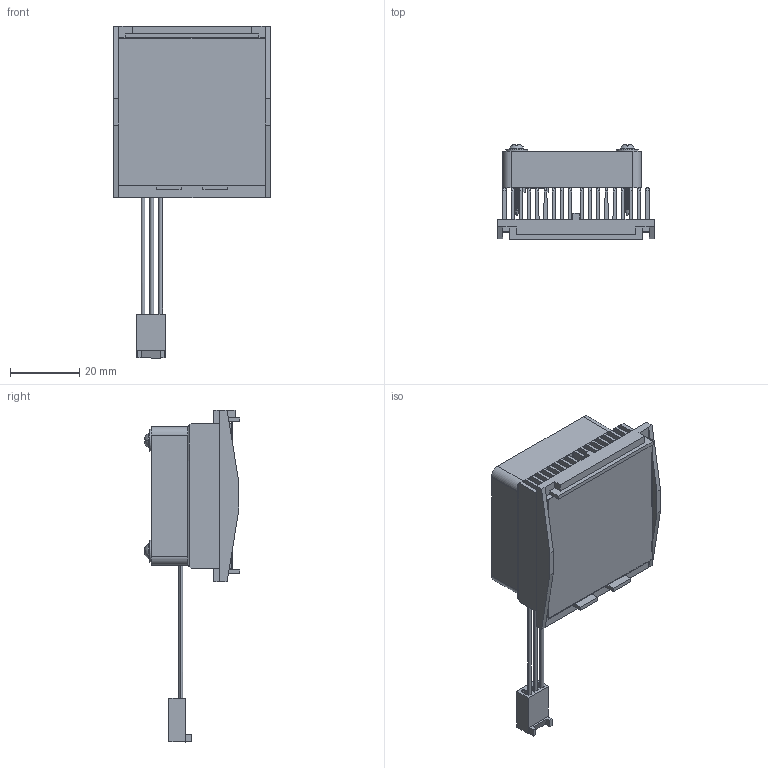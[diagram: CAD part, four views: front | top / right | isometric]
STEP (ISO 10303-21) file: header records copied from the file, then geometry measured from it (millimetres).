
FILE_DESCRIPTION (( 'STEP AP214' ), '1' );
FILE_NAME ('FJ42.5-1.7+Y.STEP', '2023-03-08T17:50:58', ( '' ), ( '' ), 'SwSTEP 2.0', 'SolidWorks 2020', '' );
FILE_SCHEMA (( 'AUTOMOTIVE_DESIGN' ));
Length unit declared in the file: millimetre
Products named in the file (1): FJ42.5-1.7+Y
Bounding box: 45.2 x 27.5 x 95.92 mm (x, y, z)
Volume: 20930.6 mm3; surface area: 35924.4 mm2
Topology: 12 solids, 12 shells, 1043 faces, 3035 edges, 2016 vertices
Faces by surface type: cylinder 448, plane 349, bspline 194, cone 36, sphere 8, torus 8
Entity records: 56903 total; most frequent: CARTESIAN_POINT 21523, ORIENTED_EDGE 6070, DIRECTION 3895, EDGE_CURVE 3035, VERTEX_POINT 2016, LINE 1471, VECTOR 1471, AXIS2_PLACEMENT_3D 1212
